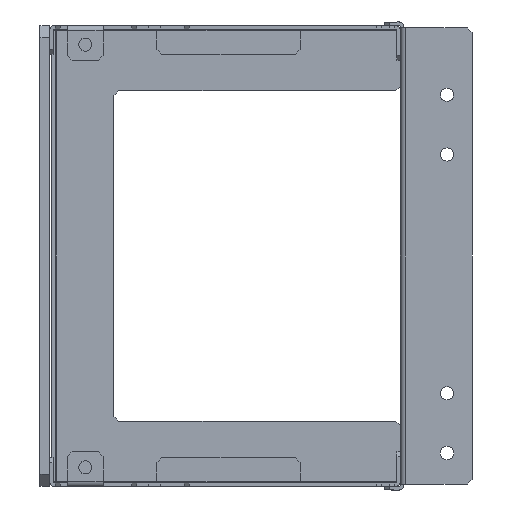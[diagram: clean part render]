
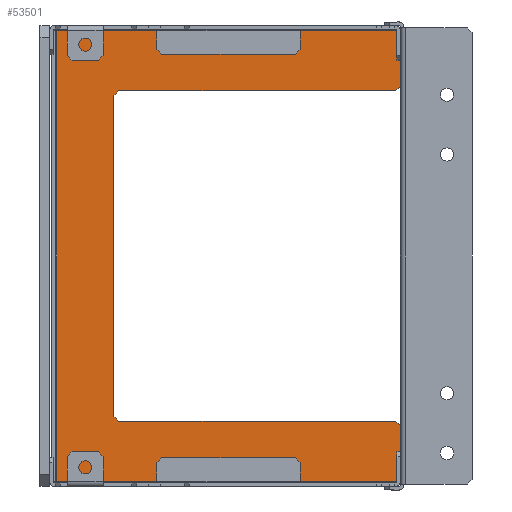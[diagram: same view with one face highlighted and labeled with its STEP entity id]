
A CAD part, left-side view. The second image highlights one B-rep face of the part: STEP entity #53501.
In plain terms, the highlighted planar face has unit normal (-1, 0, 0) as drawn and (0, 0, -1) by its records, which use the part's own axes.
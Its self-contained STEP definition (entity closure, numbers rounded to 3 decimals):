
#52471=CARTESIAN_POINT(' ',(-73.9,94.25,-1.5));
#52476=DIRECTION(' ',(0.,-1.,0.));
#52481=VECTOR(' ',#52476,1.);
#52486=LINE('',#52471,#52481);
#52491=CARTESIAN_POINT(' ',(-73.9,94.25,-1.5));
#52492=VERTEX_POINT(' ',#52491);
#52496=CARTESIAN_POINT(' ',(-73.9,-94.25,-1.5));
#52497=VERTEX_POINT(' ',#52496);
#52501=EDGE_CURVE(' ',#52492,#52497,#52486,.T.);
#53011=DIRECTION(' ',(0.,0.,-1.));
#53016=CARTESIAN_POINT(' ',(70.,-94.25,-1.5));
#53021=DIRECTION(' ',(-1.,0.,-0.));
#53026=AXIS2_PLACEMENT_3D(' ',#53016,#53011,#53021);
#53031=PLANE('NONE',#53026);
#53036=CARTESIAN_POINT(' ',(70.,71.25,-1.5));
#53041=DIRECTION(' ',(-0.707,-0.707,0.));
#53046=VECTOR(' ',#53041,1.);
#53051=LINE('',#53036,#53046);
#53056=CARTESIAN_POINT(' ',(70.,71.25,-1.5));
#53057=VERTEX_POINT(' ',#53056);
#53061=CARTESIAN_POINT(' ',(68.,69.25,-1.5));
#53062=VERTEX_POINT(' ',#53061);
#53066=EDGE_CURVE(' ',#53057,#53062,#53051,.T.);
#53071=ORIENTED_EDGE(' ',*,*,#53066,.T.);
#53076=CARTESIAN_POINT(' ',(-48.,69.25,-1.5));
#53081=DIRECTION(' ',(1.,0.,0.));
#53086=VECTOR(' ',#53081,1.);
#53091=LINE('',#53076,#53086);
#53096=CARTESIAN_POINT(' ',(-48.,69.25,-1.5));
#53097=VERTEX_POINT(' ',#53096);
#53101=EDGE_CURVE(' ',#53097,#53062,#53091,.T.);
#53106=ORIENTED_EDGE(' ',*,*,#53101,.F.);
#53111=CARTESIAN_POINT(' ',(-50.,67.25,-1.5));
#53116=DIRECTION(' ',(0.707,0.707,0.));
#53121=VECTOR(' ',#53116,1.);
#53126=LINE('',#53111,#53121);
#53131=CARTESIAN_POINT(' ',(-50.,67.25,-1.5));
#53132=VERTEX_POINT(' ',#53131);
#53136=EDGE_CURVE(' ',#53132,#53097,#53126,.T.);
#53141=ORIENTED_EDGE(' ',*,*,#53136,.F.);
#53146=CARTESIAN_POINT(' ',(-50.,-67.25,-1.5));
#53151=DIRECTION(' ',(0.,1.,0.));
#53156=VECTOR(' ',#53151,1.);
#53161=LINE('',#53146,#53156);
#53166=CARTESIAN_POINT(' ',(-50.,-67.25,-1.5));
#53167=VERTEX_POINT(' ',#53166);
#53171=EDGE_CURVE(' ',#53167,#53132,#53161,.T.);
#53176=ORIENTED_EDGE(' ',*,*,#53171,.F.);
#53181=CARTESIAN_POINT(' ',(-48.,-69.25,-1.5));
#53186=DIRECTION(' ',(-0.707,0.707,0.));
#53191=VECTOR(' ',#53186,1.);
#53196=LINE('',#53181,#53191);
#53201=CARTESIAN_POINT(' ',(-48.,-69.25,-1.5));
#53202=VERTEX_POINT(' ',#53201);
#53206=EDGE_CURVE(' ',#53202,#53167,#53196,.T.);
#53211=ORIENTED_EDGE(' ',*,*,#53206,.F.);
#53216=CARTESIAN_POINT(' ',(68.,-69.25,-1.5));
#53221=DIRECTION(' ',(-1.,0.,0.));
#53226=VECTOR(' ',#53221,1.);
#53231=LINE('',#53216,#53226);
#53236=CARTESIAN_POINT(' ',(68.,-69.25,-1.5));
#53237=VERTEX_POINT(' ',#53236);
#53241=EDGE_CURVE(' ',#53237,#53202,#53231,.T.);
#53246=ORIENTED_EDGE(' ',*,*,#53241,.F.);
#53251=CARTESIAN_POINT(' ',(68.,-69.25,-1.5));
#53256=DIRECTION(' ',(0.707,-0.707,0.));
#53261=VECTOR(' ',#53256,1.);
#53266=LINE('',#53251,#53261);
#53271=CARTESIAN_POINT(' ',(70.,-71.25,-1.5));
#53272=VERTEX_POINT(' ',#53271);
#53276=EDGE_CURVE(' ',#53237,#53272,#53266,.T.);
#53281=ORIENTED_EDGE(' ',*,*,#53276,.T.);
#53286=CARTESIAN_POINT(' ',(70.,-92.25,-1.5));
#53291=DIRECTION(' ',(0.,1.,0.));
#53296=VECTOR(' ',#53291,1.);
#53301=LINE('',#53286,#53296);
#53306=CARTESIAN_POINT(' ',(70.,-92.25,-1.5));
#53307=VERTEX_POINT(' ',#53306);
#53311=EDGE_CURVE(' ',#53307,#53272,#53301,.T.);
#53316=ORIENTED_EDGE(' ',*,*,#53311,.F.);
#53321=CARTESIAN_POINT(' ',(70.,-92.25,-1.5));
#53326=DIRECTION(' ',(-0.707,-0.707,0.));
#53331=VECTOR(' ',#53326,1.);
#53336=LINE('',#53321,#53331);
#53341=CARTESIAN_POINT(' ',(68.,-94.25,-1.5));
#53342=VERTEX_POINT(' ',#53341);
#53346=EDGE_CURVE(' ',#53307,#53342,#53336,.T.);
#53351=ORIENTED_EDGE(' ',*,*,#53346,.T.);
#53356=CARTESIAN_POINT(' ',(-73.9,-94.25,-1.5));
#53361=DIRECTION(' ',(1.,0.,0.));
#53366=VECTOR(' ',#53361,1.);
#53371=LINE('',#53356,#53366);
#53376=EDGE_CURVE(' ',#52497,#53342,#53371,.T.);
#53381=ORIENTED_EDGE(' ',*,*,#53376,.F.);
#53386=ORIENTED_EDGE(' ',*,*,#52501,.F.);
#53391=CARTESIAN_POINT(' ',(68.,94.25,-1.5));
#53396=DIRECTION(' ',(-1.,0.,0.));
#53401=VECTOR(' ',#53396,1.);
#53406=LINE('',#53391,#53401);
#53411=CARTESIAN_POINT(' ',(68.,94.25,-1.5));
#53412=VERTEX_POINT(' ',#53411);
#53416=EDGE_CURVE(' ',#53412,#52492,#53406,.T.);
#53421=ORIENTED_EDGE(' ',*,*,#53416,.F.);
#53426=CARTESIAN_POINT(' ',(68.,94.25,-1.5));
#53431=DIRECTION(' ',(0.707,-0.707,0.));
#53436=VECTOR(' ',#53431,1.);
#53441=LINE('',#53426,#53436);
#53446=CARTESIAN_POINT(' ',(70.,92.25,-1.5));
#53447=VERTEX_POINT(' ',#53446);
#53451=EDGE_CURVE(' ',#53412,#53447,#53441,.T.);
#53456=ORIENTED_EDGE(' ',*,*,#53451,.T.);
#53461=CARTESIAN_POINT(' ',(70.,71.25,-1.5));
#53466=DIRECTION(' ',(0.,1.,0.));
#53471=VECTOR(' ',#53466,1.);
#53476=LINE('',#53461,#53471);
#53481=EDGE_CURVE(' ',#53057,#53447,#53476,.T.);
#53486=ORIENTED_EDGE(' ',*,*,#53481,.F.);
#53491=EDGE_LOOP(' ',(#53071,#53106,#53141,#53176,#53211,#53246,#53281,#53316,#53351,#53381,#53386,#53421,#53456,#53486));
#53496=FACE_OUTER_BOUND(' ',#53491,.T.);
#53501=ADVANCED_FACE('NONE',(#53496),#53031,.T.);
